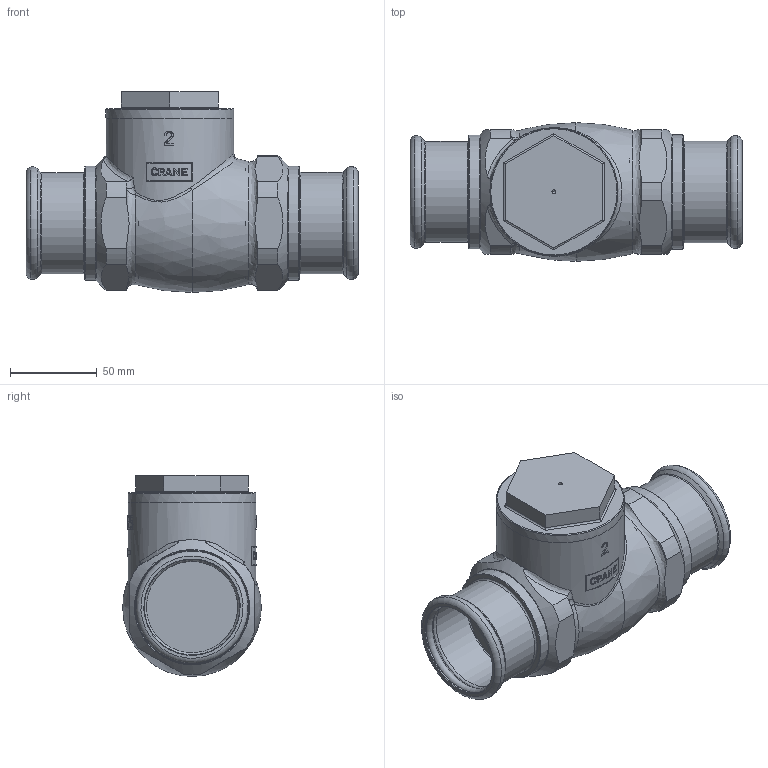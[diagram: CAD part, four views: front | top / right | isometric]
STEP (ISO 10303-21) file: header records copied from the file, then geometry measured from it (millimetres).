
FILE_DESCRIPTION((''),'2;1');
FILE_NAME('P:\Fastrack\53972_CRANE 3D\Push Fit\D138_PF-54mm.stp','2011-08-23T12:48:08',('btaylor'),(''),'Autodesk Inventor 2008','Autodesk Inventor 2008','');
FILE_SCHEMA(('AUTOMOTIVE_DESIGN { 1 0 10303 214 1 1 1 1 }'));
Length unit declared in the file: millimetre
Products named in the file (1): D138_PF-54mm
Bounding box: 191.5 x 79.98 x 115.9 mm (x, y, z)
Volume: 574977.8 mm3; surface area: 107132.7 mm2
Topology: 1 solids, 4 shells, 467 faces, 1228 edges, 806 vertices
Faces by surface type: bspline 223, plane 145, cylinder 59, cone 31, torus 9
Full cylindrical faces by diameter (mm): 54.35 x2, 55 x2, 58.4 x2, 65.8 x2, 73.8 x2
Entity records: 55966 total; most frequent: CARTESIAN_POINT 46257, ORIENTED_EDGE 2346, DIRECTION 1290, EDGE_CURVE 1173, VERTEX_POINT 798, EDGE_LOOP 551, B_SPLINE_CURVE_WITH_KNOTS 540, FACE_OUTER_BOUND 467
